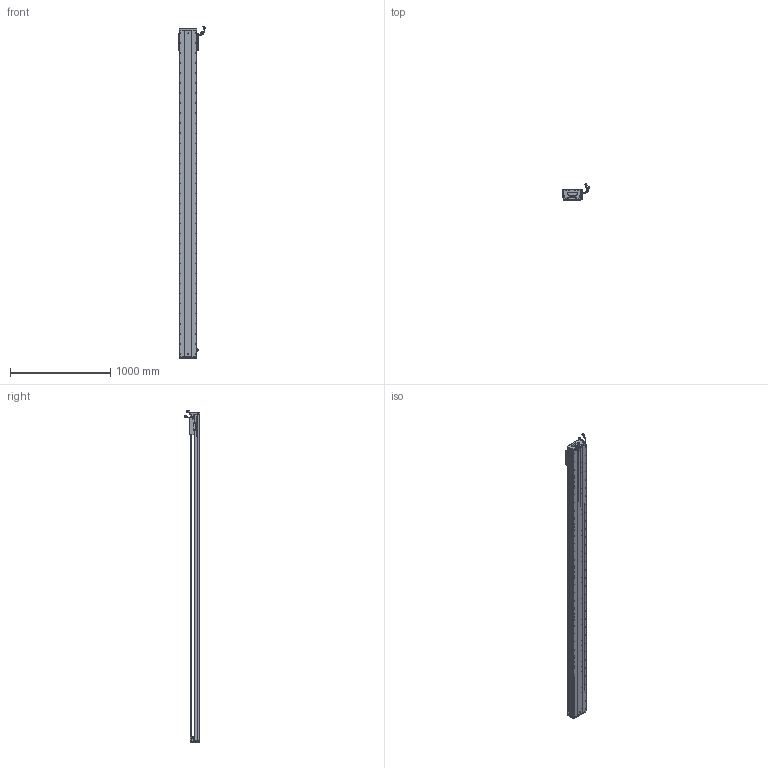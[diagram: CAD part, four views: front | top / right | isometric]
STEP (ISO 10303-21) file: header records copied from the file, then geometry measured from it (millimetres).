
FILE_DESCRIPTION (( 'STEP AP203' ), '1' );
FILE_NAME ('Z2-RY170D-1-L500-B-K.SLDASM_3000.step', '2021-05-17T09:14:12', ( '盈信电脑' ), ( '东莞市道滘镇水果街19号' ), 'SwSTEP 2.0', 'SolidWorks 2016', '' );
FILE_SCHEMA (( 'CONFIG_CONTROL_DESIGN' ));
Length unit declared in the file: millimetre
Products named in the file (36): SCALE; HARNESS-Part-2; 080黍杅芛假蚾釱21遴; HARNESS; SEAL-Part-1; 覜茼ん672; Z2-RY170-L500詩湍145mm遵_3000; Z-170詩湍傷裔啣; SCALE-Part-1; LABEL; Z2-RY170-L500耀郪菁釱_3000; LABEL-Part-1; Z-RY170詩湍狟揤裔; SHIELDPLATE; SCREW-M1.6; PBU_SHEET; 170-Z-臏賑輸盄裔(21遴); HOLDER0; SCREW-M1.6-3; COVER-Part-1; Z2-RY170臏賑輸(21遴); 140蚥薯蝶輸; SCREW-M1.7-1; 140雄赽晤鎢ん堤盄; PSLH080_PSLF2; COVER; HARNESS-Part-1; Z-RY170詩湍奻揤裔; SCREW-M1.6-1; SCALE-Part-2; SCREW-M1.7; Z2-RY170D-1-L500-B-K.SLDASM_3000; 榋妏寠巭燃_暯_M2_2; RY170直线电机感应器672光电感应片; SCREW-M1.6-2; SEAL
Assembly tree (41 placements, depth 4):
  Z2-RY170D-1-L500-B-K.SLDASM_3000
    Z2-RY170-L500耀郪菁釱_3000
    RY170直线电机感应器672光电感应片
    Z2-RY170臏賑輸(21遴)
    覜茼ん672  x3
    PSLH080_PSLF2
      SCALE
        SCALE-Part-1
        SCALE-Part-2
      HARNESS
        HARNESS-Part-1
        HARNESS-Part-2
      LABEL
        LABEL-Part-1
      COVER
        COVER-Part-1
      SEAL
        SEAL-Part-1
      榋妏寠巭燃_暯_M2_2
      SHIELDPLATE
      SCREW-M1.7
      SCREW-M1.7-1
      PBU_SHEET
      SCREW-M1.6
      SCREW-M1.6-1
      SCREW-M1.6-2
      SCREW-M1.6-3
      HOLDER0
    080黍杅芛假蚾釱21遴
    Z2-RY170-L500詩湍145mm遵_3000
    Z-170詩湍傷裔啣  x2
    Z-RY170詩湍奻揤裔  x2
    Z-RY170詩湍狟揤裔  x2
    140蚥薯蝶輸  x2
    170-Z-臏賑輸盄裔(21遴)
    140雄赽晤鎢ん堤盄
Bounding box: 275.29 x 158.11 x 3313.72 mm (x, y, z)
Volume: 15849217.9 mm3; surface area: 3942930.7 mm2
Topology: 36 solids, 36 shells, 4530 faces, 12725 edges, 7941 vertices
Faces by surface type: cylinder 2360, plane 1388, cone 660, torus 69, bspline 53
Entity records: 146317 total; most frequent: CARTESIAN_POINT 42266, ORIENTED_EDGE 21734, DIRECTION 19835, EDGE_CURVE 10867, AXIS2_PLACEMENT_3D 7324, VERTEX_POINT 7059, LINE 5187, VECTOR 5187
